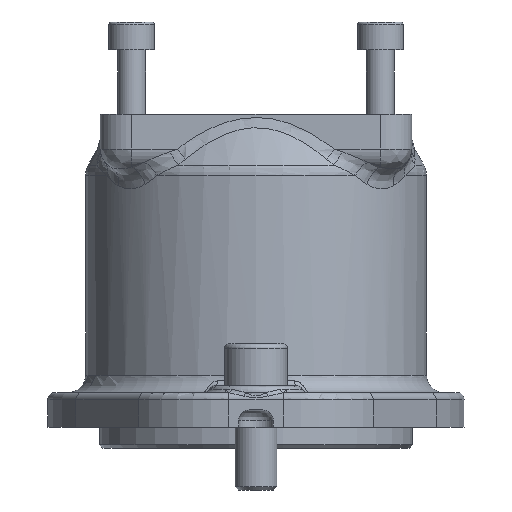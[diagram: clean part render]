
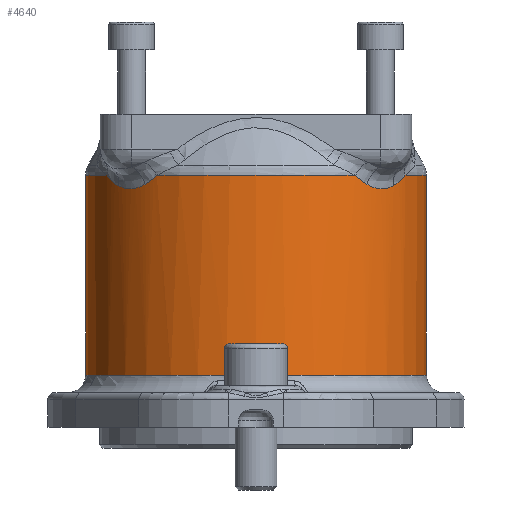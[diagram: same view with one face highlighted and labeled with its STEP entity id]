
A CAD part, front view. The second image highlights one B-rep face of the part: STEP entity #4640.
In plain terms, the highlighted cylindrical face has radius 49 mm (diameter 98 mm), a full revolution.
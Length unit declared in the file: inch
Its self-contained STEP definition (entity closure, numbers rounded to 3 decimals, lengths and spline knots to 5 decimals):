
#95=B_SPLINE_CURVE_WITH_KNOTS('',3,(#8447,#8448,#8449,#8450,#8451,#8452),
 .UNSPECIFIED.,.F.,.F.,(4,1,1,4),(-1.61766,-1.15547,-0.92438,
0.),.UNSPECIFIED.);
#96=B_SPLINE_CURVE_WITH_KNOTS('',3,(#8456,#8457,#8458,#8459,#8460,#8461),
 .UNSPECIFIED.,.F.,.F.,(4,1,1,4),(0.,0.92438,1.15547,
1.61766),.UNSPECIFIED.);
#97=B_SPLINE_CURVE_WITH_KNOTS('',3,(#8468,#8469,#8470,#8471),
 .UNSPECIFIED.,.F.,.F.,(4,4),(-0.73568,0.),
 .UNSPECIFIED.);
#98=B_SPLINE_CURVE_WITH_KNOTS('',3,(#8473,#8474,#8475,#8476,#8477,#8478,
#8479),.UNSPECIFIED.,.F.,.F.,(4,1,1,1,4),(-1.30261,-0.93043,
-0.74435,-0.37217,0.),
 .UNSPECIFIED.);
#99=B_SPLINE_CURVE_WITH_KNOTS('',3,(#8481,#8482,#8483,#8484),
 .UNSPECIFIED.,.F.,.F.,(4,4),(0.,0.54074),
 .UNSPECIFIED.);
#100=B_SPLINE_CURVE_WITH_KNOTS('',3,(#8488,#8489,#8490,#8491),
 .UNSPECIFIED.,.F.,.F.,(4,4),(-0.54074,0.),
 .UNSPECIFIED.);
#101=B_SPLINE_CURVE_WITH_KNOTS('',3,(#8493,#8494,#8495,#8496,#8497,#8498,
#8499),.UNSPECIFIED.,.F.,.F.,(4,1,1,1,4),(-1.3025,-0.93036,
-0.55822,-0.37214,0.),
 .UNSPECIFIED.);
#102=B_SPLINE_CURVE_WITH_KNOTS('',3,(#8501,#8502,#8503,#8504),
 .UNSPECIFIED.,.F.,.F.,(4,4),(0.,0.73568),
 .UNSPECIFIED.);
#425=CYLINDRICAL_SURFACE('',#5118,1.92913);
#624=FACE_OUTER_BOUND('',#929,.T.);
#929=EDGE_LOOP('',(#3668,#3669,#3670,#3671,#3672,#3673,#3674,#3675,#3676,
#3677,#3678,#3679,#3680,#3681,#3682,#3683,#3684));
#1197=LINE('',#8464,#1429);
#1429=VECTOR('',#6138,1.92913);
#1660=CIRCLE('',#5056,1.92913);
#1661=CIRCLE('',#5057,1.92913);
#1700=CIRCLE('',#5119,1.92913);
#1701=CIRCLE('',#5120,1.92913);
#1702=CIRCLE('',#5121,1.92913);
#1703=CIRCLE('',#5122,1.92913);
#1704=CIRCLE('',#5123,1.92913);
#2032=VERTEX_POINT('',#8049);
#2033=VERTEX_POINT('',#8051);
#2066=VERTEX_POINT('',#8445);
#2067=VERTEX_POINT('',#8446);
#2068=VERTEX_POINT('',#8453);
#2069=VERTEX_POINT('',#8455);
#2070=VERTEX_POINT('',#8462);
#2071=VERTEX_POINT('',#8465);
#2072=VERTEX_POINT('',#8467);
#2073=VERTEX_POINT('',#8472);
#2074=VERTEX_POINT('',#8480);
#2075=VERTEX_POINT('',#8485);
#2076=VERTEX_POINT('',#8487);
#2077=VERTEX_POINT('',#8492);
#2078=VERTEX_POINT('',#8500);
#2563=EDGE_CURVE('',#2032,#2033,#1660,.T.);
#2564=EDGE_CURVE('',#2033,#2032,#1661,.T.);
#2626=EDGE_CURVE('',#2066,#2067,#95,.T.);
#2627=EDGE_CURVE('',#2068,#2066,#1700,.T.);
#2628=EDGE_CURVE('',#2069,#2068,#96,.T.);
#2629=EDGE_CURVE('',#2070,#2069,#1701,.T.);
#2630=EDGE_CURVE('',#2070,#2033,#1197,.T.);
#2631=EDGE_CURVE('',#2071,#2070,#1702,.T.);
#2632=EDGE_CURVE('',#2072,#2071,#97,.T.);
#2633=EDGE_CURVE('',#2073,#2072,#98,.T.);
#2634=EDGE_CURVE('',#2074,#2073,#99,.T.);
#2635=EDGE_CURVE('',#2075,#2074,#1703,.T.);
#2636=EDGE_CURVE('',#2076,#2075,#100,.T.);
#2637=EDGE_CURVE('',#2077,#2076,#101,.T.);
#2638=EDGE_CURVE('',#2078,#2077,#102,.T.);
#2639=EDGE_CURVE('',#2067,#2078,#1704,.T.);
#3668=ORIENTED_EDGE('',*,*,#2626,.F.);
#3669=ORIENTED_EDGE('',*,*,#2627,.F.);
#3670=ORIENTED_EDGE('',*,*,#2628,.F.);
#3671=ORIENTED_EDGE('',*,*,#2629,.F.);
#3672=ORIENTED_EDGE('',*,*,#2630,.T.);
#3673=ORIENTED_EDGE('',*,*,#2563,.F.);
#3674=ORIENTED_EDGE('',*,*,#2564,.F.);
#3675=ORIENTED_EDGE('',*,*,#2630,.F.);
#3676=ORIENTED_EDGE('',*,*,#2631,.F.);
#3677=ORIENTED_EDGE('',*,*,#2632,.F.);
#3678=ORIENTED_EDGE('',*,*,#2633,.F.);
#3679=ORIENTED_EDGE('',*,*,#2634,.F.);
#3680=ORIENTED_EDGE('',*,*,#2635,.F.);
#3681=ORIENTED_EDGE('',*,*,#2636,.F.);
#3682=ORIENTED_EDGE('',*,*,#2637,.F.);
#3683=ORIENTED_EDGE('',*,*,#2638,.F.);
#3684=ORIENTED_EDGE('',*,*,#2639,.F.);
#4640=ADVANCED_FACE('',(#624),#425,.T.);
#5056=AXIS2_PLACEMENT_3D('',#8052,#5999,#6000);
#5057=AXIS2_PLACEMENT_3D('',#8053,#6001,#6002);
#5118=AXIS2_PLACEMENT_3D('',#8444,#6132,#6133);
#5119=AXIS2_PLACEMENT_3D('',#8454,#6134,#6135);
#5120=AXIS2_PLACEMENT_3D('',#8463,#6136,#6137);
#5121=AXIS2_PLACEMENT_3D('',#8466,#6139,#6140);
#5122=AXIS2_PLACEMENT_3D('',#8486,#6141,#6142);
#5123=AXIS2_PLACEMENT_3D('',#8505,#6143,#6144);
#5999=DIRECTION('center_axis',(0.,0.,-1.));
#6000=DIRECTION('ref_axis',(-1.,0.,0.));
#6001=DIRECTION('center_axis',(0.,0.,-1.));
#6002=DIRECTION('ref_axis',(-1.,0.,0.));
#6132=DIRECTION('center_axis',(0.,0.,1.));
#6133=DIRECTION('ref_axis',(-1.,0.,0.));
#6134=DIRECTION('center_axis',(0.,0.,
1.));
#6135=DIRECTION('ref_axis',(0.,1.,0.));
#6136=DIRECTION('center_axis',(0.,0.,1.));
#6137=DIRECTION('ref_axis',(-1.,0.,0.));
#6138=DIRECTION('',(0.,0.,-1.));
#6139=DIRECTION('center_axis',(0.,0.,1.));
#6140=DIRECTION('ref_axis',(-1.,0.,0.));
#6141=DIRECTION('center_axis',(0.,0.,1.));
#6142=DIRECTION('ref_axis',(-1.,0.,0.));
#6143=DIRECTION('center_axis',(0.,0.,1.));
#6144=DIRECTION('ref_axis',(-1.,0.,0.));
#8049=CARTESIAN_POINT('',(-1.92913,0.,0.59055));
#8051=CARTESIAN_POINT('',(1.92913,0.,0.59055));
#8052=CARTESIAN_POINT('Origin',(0.,0.,0.59055));
#8053=CARTESIAN_POINT('Origin',(0.,0.,0.59055));
#8444=CARTESIAN_POINT('Origin',(0.,0.,0.));
#8445=CARTESIAN_POINT('',(-1.35916,1.36903,2.67717));
#8446=CARTESIAN_POINT('',(-1.6857,0.93807,2.85151));
#8447=CARTESIAN_POINT('Ctrl Pts',(-1.35916,1.36903,2.67717));
#8448=CARTESIAN_POINT('Ctrl Pts',(-1.39776,1.33071,2.67717));
#8449=CARTESIAN_POINT('Ctrl Pts',(-1.45352,1.27028,2.68604));
#8450=CARTESIAN_POINT('Ctrl Pts',(-1.57054,1.12683,2.73133));
#8451=CARTESIAN_POINT('Ctrl Pts',(-1.64059,1.01913,2.78926));
#8452=CARTESIAN_POINT('Ctrl Pts',(-1.6857,0.93807,2.85151));
#8453=CARTESIAN_POINT('',(1.35916,1.36903,2.67717));
#8454=CARTESIAN_POINT('Origin',(0.,0.,2.67717));
#8455=CARTESIAN_POINT('',(1.6857,0.93807,2.85151));
#8456=CARTESIAN_POINT('Ctrl Pts',(1.6857,0.93807,2.85151));
#8457=CARTESIAN_POINT('Ctrl Pts',(1.64059,1.01913,2.78926));
#8458=CARTESIAN_POINT('Ctrl Pts',(1.57054,1.12683,2.73133));
#8459=CARTESIAN_POINT('Ctrl Pts',(1.45352,1.27028,2.68604));
#8460=CARTESIAN_POINT('Ctrl Pts',(1.39776,1.33071,2.67717));
#8461=CARTESIAN_POINT('Ctrl Pts',(1.35916,1.36903,2.67717));
#8462=CARTESIAN_POINT('',(1.92913,0.,2.85151));
#8463=CARTESIAN_POINT('Origin',(0.,0.,2.85151));
#8464=CARTESIAN_POINT('',(1.92913,0.,0.));
#8465=CARTESIAN_POINT('',(1.6857,-0.93807,2.85151));
#8466=CARTESIAN_POINT('Origin',(0.,0.,2.85151));
#8467=CARTESIAN_POINT('',(1.55833,-1.13717,2.73341));
#8468=CARTESIAN_POINT('Ctrl Pts',(1.55833,-1.13717,2.73341));
#8469=CARTESIAN_POINT('Ctrl Pts',(1.60694,-1.07056,2.76271));
#8470=CARTESIAN_POINT('Ctrl Pts',(1.6498,-1.00258,2.80196));
#8471=CARTESIAN_POINT('Ctrl Pts',(1.6857,-0.93807,2.85151));
#8472=CARTESIAN_POINT('',(1.25394,-1.46601,2.74936));
#8473=CARTESIAN_POINT('Ctrl Pts',(1.25394,-1.46601,2.74936));
#8474=CARTESIAN_POINT('Ctrl Pts',(1.28456,-1.43982,2.73092));
#8475=CARTESIAN_POINT('Ctrl Pts',(1.33159,-1.39703,2.7122));
#8476=CARTESIAN_POINT('Ctrl Pts',(1.40793,-1.32006,2.69912));
#8477=CARTESIAN_POINT('Ctrl Pts',(1.48085,-1.23868,2.70067));
#8478=CARTESIAN_POINT('Ctrl Pts',(1.53388,-1.17068,2.71866));
#8479=CARTESIAN_POINT('Ctrl Pts',(1.55833,-1.13717,2.73341));
#8480=CARTESIAN_POINT('',(1.1225,-1.56893,2.85151));
#8481=CARTESIAN_POINT('Ctrl Pts',(1.1225,-1.56893,2.85151));
#8482=CARTESIAN_POINT('Ctrl Pts',(1.16432,-1.53901,2.81022));
#8483=CARTESIAN_POINT('Ctrl Pts',(1.20919,-1.50429,2.7763));
#8484=CARTESIAN_POINT('Ctrl Pts',(1.25394,-1.46601,2.74936));
#8485=CARTESIAN_POINT('',(-1.1225,-1.56893,2.85151));
#8486=CARTESIAN_POINT('Origin',(0.,0.,2.85151));
#8487=CARTESIAN_POINT('',(-1.25394,-1.46601,2.74936));
#8488=CARTESIAN_POINT('Ctrl Pts',(-1.25394,-1.46601,2.74936));
#8489=CARTESIAN_POINT('Ctrl Pts',(-1.20919,-1.50429,2.7763));
#8490=CARTESIAN_POINT('Ctrl Pts',(-1.16432,-1.53901,2.81022));
#8491=CARTESIAN_POINT('Ctrl Pts',(-1.1225,-1.56893,2.85151));
#8492=CARTESIAN_POINT('',(-1.55833,-1.13717,2.73341));
#8493=CARTESIAN_POINT('Ctrl Pts',(-1.55833,-1.13717,2.73341));
#8494=CARTESIAN_POINT('Ctrl Pts',(-1.53388,-1.17068,2.71867));
#8495=CARTESIAN_POINT('Ctrl Pts',(-1.48098,-1.23853,2.7007));
#8496=CARTESIAN_POINT('Ctrl Pts',(-1.40803,-1.31996,2.69911));
#8497=CARTESIAN_POINT('Ctrl Pts',(-1.33173,-1.39689,2.71215));
#8498=CARTESIAN_POINT('Ctrl Pts',(-1.28456,-1.43983,2.73092));
#8499=CARTESIAN_POINT('Ctrl Pts',(-1.25394,-1.46601,2.74936));
#8500=CARTESIAN_POINT('',(-1.6857,-0.93807,2.85151));
#8501=CARTESIAN_POINT('Ctrl Pts',(-1.6857,-0.93807,2.85151));
#8502=CARTESIAN_POINT('Ctrl Pts',(-1.6498,-1.00258,2.80196));
#8503=CARTESIAN_POINT('Ctrl Pts',(-1.60694,-1.07056,2.76271));
#8504=CARTESIAN_POINT('Ctrl Pts',(-1.55833,-1.13717,2.73341));
#8505=CARTESIAN_POINT('Origin',(0.,0.,2.85151));
